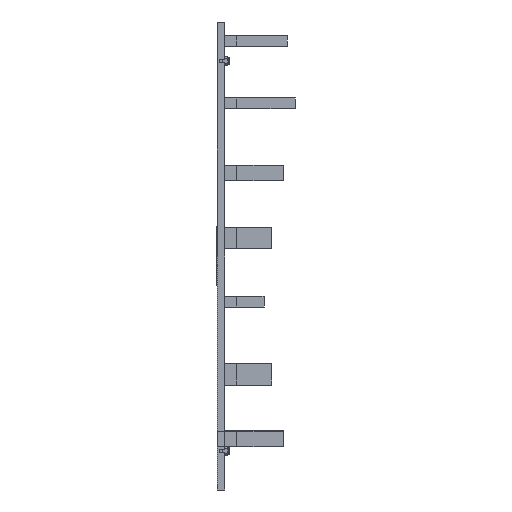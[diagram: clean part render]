
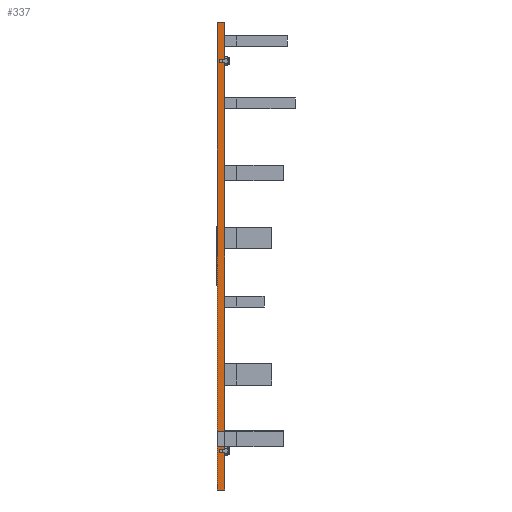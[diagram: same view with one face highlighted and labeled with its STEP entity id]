
A CAD part, left-side view. The second image highlights one B-rep face of the part: STEP entity #337.
In plain terms, the highlighted planar face has unit normal (1, 0, 0).
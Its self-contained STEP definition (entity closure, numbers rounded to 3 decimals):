
#337=ADVANCED_FACE('',(#967),#10074,.T.);
#967=FACE_OUTER_BOUND('',#1606,.T.);
#1606=EDGE_LOOP('',(#2867,#2868,#2869,#2870,#2871,#2872,#2873,#2874,#2875,
#2876,#2877,#2878));
#2867=ORIENTED_EDGE('',*,*,#5818,.T.);
#2868=ORIENTED_EDGE('',*,*,#5820,.T.);
#2869=ORIENTED_EDGE('',*,*,#5824,.T.);
#2870=ORIENTED_EDGE('',*,*,#5815,.F.);
#2871=ORIENTED_EDGE('',*,*,#5814,.F.);
#2872=ORIENTED_EDGE('',*,*,#5816,.T.);
#2873=ORIENTED_EDGE('',*,*,#5817,.T.);
#2874=ORIENTED_EDGE('',*,*,#5822,.T.);
#2875=ORIENTED_EDGE('',*,*,#5821,.T.);
#2876=ORIENTED_EDGE('',*,*,#5823,.T.);
#2877=ORIENTED_EDGE('',*,*,#5825,.T.);
#2878=ORIENTED_EDGE('',*,*,#5819,.T.);
#5814=EDGE_CURVE('',#8994,#8995,#7636,.T.);
#5815=EDGE_CURVE('',#8995,#8996,#7637,.T.);
#5816=EDGE_CURVE('',#8994,#8997,#7638,.T.);
#5817=EDGE_CURVE('',#8997,#9004,#7639,.T.);
#5818=EDGE_CURVE('',#8998,#8999,#7640,.T.);
#5819=EDGE_CURVE('',#9000,#8998,#7641,.T.);
#5820=EDGE_CURVE('',#8999,#9001,#7642,.T.);
#5821=EDGE_CURVE('',#9002,#9003,#7643,.T.);
#5822=EDGE_CURVE('',#9004,#9002,#7644,.T.);
#5823=EDGE_CURVE('',#9003,#9005,#7645,.T.);
#5824=EDGE_CURVE('',#9001,#8996,#7646,.T.);
#5825=EDGE_CURVE('',#9005,#9000,#7647,.T.);
#7636=B_SPLINE_CURVE_WITH_KNOTS('',1,(#13819,#13820),.UNSPECIFIED.,.F.,
 .F.,(2,2),(0.,600.),.UNSPECIFIED.);
#7637=B_SPLINE_CURVE_WITH_KNOTS('',1,(#13821,#13822),.UNSPECIFIED.,.F.,
 .F.,(2,2),(0.,10.),.UNSPECIFIED.);
#7638=B_SPLINE_CURVE_WITH_KNOTS('',1,(#13823,#13824),.UNSPECIFIED.,.F.,
 .F.,(2,2),(0.,10.),.UNSPECIFIED.);
#7639=B_SPLINE_CURVE_WITH_KNOTS('',1,(#13825,#13826),.UNSPECIFIED.,.F.,
 .F.,(2,2),(0.,47.5),.UNSPECIFIED.);
#7640=B_SPLINE_CURVE_WITH_KNOTS('',1,(#13827,#13828),.UNSPECIFIED.,.F.,
 .F.,(2,2),(547.5,552.5),.UNSPECIFIED.);
#7641=B_SPLINE_CURVE_WITH_KNOTS('',1,(#13829,#13830),.UNSPECIFIED.,.F.,
 .F.,(2,2),(0.,1.),.UNSPECIFIED.);
#7642=B_SPLINE_CURVE_WITH_KNOTS('',1,(#13831,#13832),.UNSPECIFIED.,.F.,
 .F.,(2,2),(2.,3.),.UNSPECIFIED.);
#7643=B_SPLINE_CURVE_WITH_KNOTS('',1,(#13833,#13834),.UNSPECIFIED.,.F.,
 .F.,(2,2),(47.5,52.5),.UNSPECIFIED.);
#7644=B_SPLINE_CURVE_WITH_KNOTS('',1,(#13835,#13836),.UNSPECIFIED.,.F.,
 .F.,(2,2),(0.,1.),.UNSPECIFIED.);
#7645=B_SPLINE_CURVE_WITH_KNOTS('',1,(#13837,#13838),.UNSPECIFIED.,.F.,
 .F.,(2,2),(2.,3.),.UNSPECIFIED.);
#7646=B_SPLINE_CURVE_WITH_KNOTS('',1,(#13839,#13840),.UNSPECIFIED.,.F.,
 .F.,(2,2),(552.5,600.),.UNSPECIFIED.);
#7647=B_SPLINE_CURVE_WITH_KNOTS('',1,(#13841,#13842),.UNSPECIFIED.,.F.,
 .F.,(2,2),(52.5,547.5),.UNSPECIFIED.);
#8994=VERTEX_POINT('',#12395);
#8995=VERTEX_POINT('',#12396);
#8996=VERTEX_POINT('',#12397);
#8997=VERTEX_POINT('',#12398);
#8998=VERTEX_POINT('',#12399);
#8999=VERTEX_POINT('',#12400);
#9000=VERTEX_POINT('',#12401);
#9001=VERTEX_POINT('',#12402);
#9002=VERTEX_POINT('',#12403);
#9003=VERTEX_POINT('',#12404);
#9004=VERTEX_POINT('',#12405);
#9005=VERTEX_POINT('',#12406);
#10074=PLANE('',#10534);
#10534=AXIS2_PLACEMENT_3D('',#12087,#10926,$);
#10926=DIRECTION('',(1.,0.,0.));
#12087=CARTESIAN_POINT('',(3842.336,-508.257,1486.87));
#12395=CARTESIAN_POINT('',(3842.336,-508.257,1486.87));
#12396=CARTESIAN_POINT('',(3842.336,-508.257,886.87));
#12397=CARTESIAN_POINT('',(3842.336,-518.257,886.87));
#12398=CARTESIAN_POINT('',(3842.336,-518.257,1486.87));
#12399=CARTESIAN_POINT('',(3842.336,-511.257,939.37));
#12400=CARTESIAN_POINT('',(3842.336,-511.257,934.37));
#12401=CARTESIAN_POINT('',(3842.336,-518.257,939.37));
#12402=CARTESIAN_POINT('',(3842.336,-518.257,934.37));
#12403=CARTESIAN_POINT('',(3842.336,-511.257,1439.37));
#12404=CARTESIAN_POINT('',(3842.336,-511.257,1434.37));
#12405=CARTESIAN_POINT('',(3842.336,-518.257,1439.37));
#12406=CARTESIAN_POINT('',(3842.336,-518.257,1434.37));
#13819=CARTESIAN_POINT('',(3842.336,-508.257,1486.87));
#13820=CARTESIAN_POINT('',(3842.336,-508.257,886.87));
#13821=CARTESIAN_POINT('',(3842.336,-508.257,886.87));
#13822=CARTESIAN_POINT('',(3842.336,-518.257,886.87));
#13823=CARTESIAN_POINT('',(3842.336,-508.257,1486.87));
#13824=CARTESIAN_POINT('',(3842.336,-518.257,1486.87));
#13825=CARTESIAN_POINT('',(3842.336,-518.257,1486.87));
#13826=CARTESIAN_POINT('',(3842.336,-518.257,1439.37));
#13827=CARTESIAN_POINT('',(3842.336,-511.257,939.37));
#13828=CARTESIAN_POINT('',(3842.336,-511.257,934.37));
#13829=CARTESIAN_POINT('',(3842.336,-518.257,939.37));
#13830=CARTESIAN_POINT('',(3842.336,-511.257,939.37));
#13831=CARTESIAN_POINT('',(3842.336,-511.257,934.37));
#13832=CARTESIAN_POINT('',(3842.336,-518.257,934.37));
#13833=CARTESIAN_POINT('',(3842.336,-511.257,1439.37));
#13834=CARTESIAN_POINT('',(3842.336,-511.257,1434.37));
#13835=CARTESIAN_POINT('',(3842.336,-518.257,1439.37));
#13836=CARTESIAN_POINT('',(3842.336,-511.257,1439.37));
#13837=CARTESIAN_POINT('',(3842.336,-511.257,1434.37));
#13838=CARTESIAN_POINT('',(3842.336,-518.257,1434.37));
#13839=CARTESIAN_POINT('',(3842.336,-518.257,934.37));
#13840=CARTESIAN_POINT('',(3842.336,-518.257,886.87));
#13841=CARTESIAN_POINT('',(3842.336,-518.257,1434.37));
#13842=CARTESIAN_POINT('',(3842.336,-518.257,939.37));
